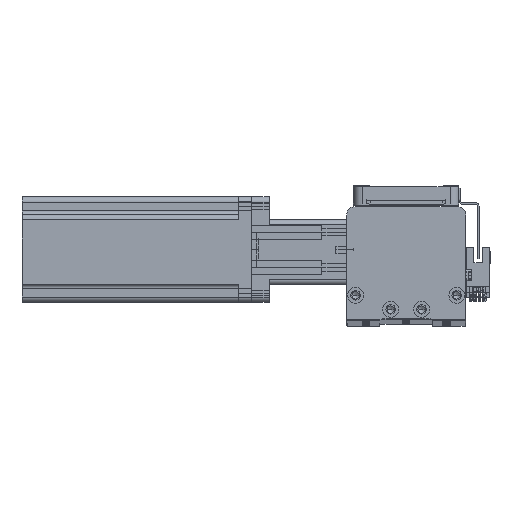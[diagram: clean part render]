
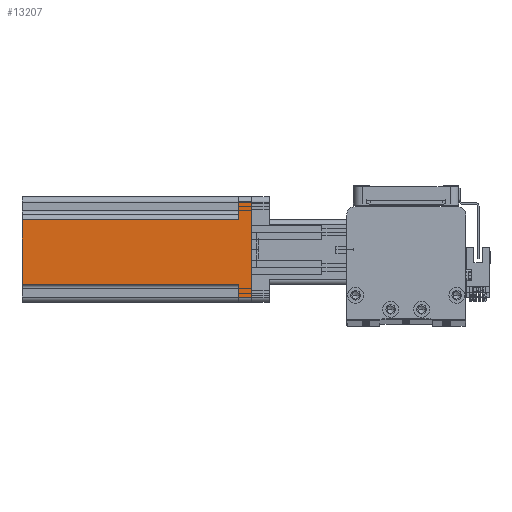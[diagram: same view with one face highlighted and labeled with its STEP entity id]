
A CAD part, top view. The second image highlights one B-rep face of the part: STEP entity #13207.
In plain terms, the highlighted planar face has unit normal (0, 0, 1) as drawn and (-1, 0, 0) by its records, which use the part's own axes.
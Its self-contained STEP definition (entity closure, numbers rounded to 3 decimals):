
#372 = ORIENTED_EDGE ( 'NONE', *, *, #21160, .T. ) ;
#1761 = CARTESIAN_POINT ( 'NONE',  ( -30., 30., 7.5 ) ) ;
#2067 = ORIENTED_EDGE ( 'NONE', *, *, #47712, .F. ) ;
#2362 = VERTEX_POINT ( 'NONE', #28545 ) ;
#3488 = VECTOR ( 'NONE', #43995, 1000. ) ;
#4436 = LINE ( 'NONE', #1761, #46632 ) ;
#4660 = ORIENTED_EDGE ( 'NONE', *, *, #36288, .T. ) ;
#5710 = CARTESIAN_POINT ( 'NONE',  ( -30., -17., 130.7 ) ) ;
#7698 = LINE ( 'NONE', #12178, #48611 ) ;
#7755 = EDGE_CURVE ( 'NONE', #34930, #52277, #7698, .T. ) ;
#9649 = DIRECTION ( 'NONE',  ( 0., 0., 1. ) ) ;
#9740 = ORIENTED_EDGE ( 'NONE', *, *, #34280, .T. ) ;
#10117 = CARTESIAN_POINT ( 'NONE',  ( -30., -17., 130.7 ) ) ;
#12159 = CARTESIAN_POINT ( 'NONE',  ( -30., 20., 7.5 ) ) ;
#12178 = CARTESIAN_POINT ( 'NONE',  ( -30., 27., 130.7 ) ) ;
#12820 = FACE_OUTER_BOUND ( 'NONE', #51876, .T. ) ;
#13207 = ADVANCED_FACE ( 'NONE', ( #12820 ), #27665, .F. ) ;
#13621 = VECTOR ( 'NONE', #49307, 1000. ) ;
#14713 = CARTESIAN_POINT ( 'NONE',  ( -30., -30., 130.7 ) ) ;
#16155 = VECTOR ( 'NONE', #18810, 1000. ) ;
#16305 = DIRECTION ( 'NONE',  ( 0., 0., -1. ) ) ;
#16547 = VECTOR ( 'NONE', #46562, 1000. ) ;
#18810 = DIRECTION ( 'NONE',  ( 0., -1., 0. ) ) ;
#19003 = EDGE_CURVE ( 'NONE', #46531, #34930, #4436, .T. ) ;
#19692 = CARTESIAN_POINT ( 'NONE',  ( -30., -30., 130.7 ) ) ;
#20038 = CARTESIAN_POINT ( 'NONE',  ( -30., 27., 7.5 ) ) ;
#21160 = EDGE_CURVE ( 'NONE', #2362, #29139, #21888, .T. ) ;
#21888 = LINE ( 'NONE', #5710, #43545 ) ;
#23240 = CARTESIAN_POINT ( 'NONE',  ( -30., -27., 0. ) ) ;
#23292 = CARTESIAN_POINT ( 'NONE',  ( -30., -30., 0. ) ) ;
#23775 = DIRECTION ( 'NONE',  ( 0., 0., -1. ) ) ;
#24487 = ORIENTED_EDGE ( 'NONE', *, *, #7755, .T. ) ;
#24909 = ORIENTED_EDGE ( 'NONE', *, *, #45531, .F. ) ;
#27005 = LINE ( 'NONE', #14713, #16155 ) ;
#27665 = PLANE ( 'NONE',  #38056 ) ;
#28545 = CARTESIAN_POINT ( 'NONE',  ( -30., -17., 7.5 ) ) ;
#29139 = VERTEX_POINT ( 'NONE', #10117 ) ;
#31165 = EDGE_CURVE ( 'NONE', #32703, #29139, #27005, .T. ) ;
#32201 = CARTESIAN_POINT ( 'NONE',  ( -30., -27., 7.5 ) ) ;
#32703 = VERTEX_POINT ( 'NONE', #51041 ) ;
#33926 = VECTOR ( 'NONE', #51745, 1000. ) ;
#34280 = EDGE_CURVE ( 'NONE', #43435, #52502, #36061, .T. ) ;
#34930 = VERTEX_POINT ( 'NONE', #20038 ) ;
#34941 = CARTESIAN_POINT ( 'NONE',  ( -30., 27., 0. ) ) ;
#36061 = LINE ( 'NONE', #52145, #3488 ) ;
#36288 = EDGE_CURVE ( 'NONE', #52277, #43435, #52978, .T. ) ;
#37612 = ORIENTED_EDGE ( 'NONE', *, *, #31165, .F. ) ;
#38056 = AXIS2_PLACEMENT_3D ( 'NONE', #19692, #48174, #23775 ) ;
#38239 = LINE ( 'NONE', #50470, #16547 ) ;
#38526 = DIRECTION ( 'NONE',  ( 0., 1., 0. ) ) ;
#43435 = VERTEX_POINT ( 'NONE', #23240 ) ;
#43545 = VECTOR ( 'NONE', #9649, 1000. ) ;
#43995 = DIRECTION ( 'NONE',  ( 0., 0., 1. ) ) ;
#45262 = CARTESIAN_POINT ( 'NONE',  ( -30., -30., 7.5 ) ) ;
#45531 = EDGE_CURVE ( 'NONE', #46531, #32703, #38239, .T. ) ;
#46181 = LINE ( 'NONE', #45262, #13621 ) ;
#46531 = VERTEX_POINT ( 'NONE', #12159 ) ;
#46562 = DIRECTION ( 'NONE',  ( 0., 0., 1. ) ) ;
#46632 = VECTOR ( 'NONE', #38526, 1000. ) ;
#47712 = EDGE_CURVE ( 'NONE', #2362, #52502, #46181, .T. ) ;
#48052 = ORIENTED_EDGE ( 'NONE', *, *, #19003, .T. ) ;
#48174 = DIRECTION ( 'NONE',  ( 1., 0., 0. ) ) ;
#48611 = VECTOR ( 'NONE', #16305, 1000. ) ;
#49307 = DIRECTION ( 'NONE',  ( 0., -1., 0. ) ) ;
#50470 = CARTESIAN_POINT ( 'NONE',  ( -30., 20., 7.5 ) ) ;
#51041 = CARTESIAN_POINT ( 'NONE',  ( -30., 20., 130.7 ) ) ;
#51745 = DIRECTION ( 'NONE',  ( 0., -1., 0. ) ) ;
#51876 = EDGE_LOOP ( 'NONE', ( #2067, #372, #37612, #24909, #48052, #24487, #4660, #9740 ) ) ;
#52145 = CARTESIAN_POINT ( 'NONE',  ( -30., -27., 130.7 ) ) ;
#52277 = VERTEX_POINT ( 'NONE', #34941 ) ;
#52502 = VERTEX_POINT ( 'NONE', #32201 ) ;
#52978 = LINE ( 'NONE', #23292, #33926 ) ;
